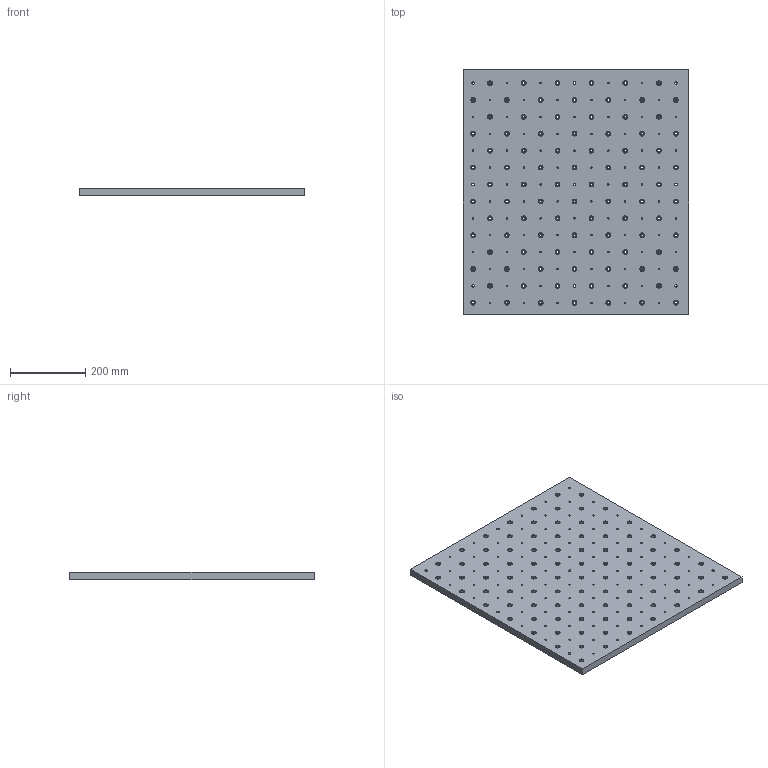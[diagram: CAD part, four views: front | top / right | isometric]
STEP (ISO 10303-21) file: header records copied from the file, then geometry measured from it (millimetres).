
FILE_DESCRIPTION(/* description */ (''),/* implementation_level */ '2;1');
FILE_NAME(/* name */ 'CL-6560 Spoilboard v1.step',/* time_stamp */ '2026-07-29T14:44:47+01:00',/* author */ (''),/* organization */ (''),/* preprocessor_version */ 'ST-DEVELOPER v20.1',/* originating_system */ 'Autodesk Translation Framework v15.8.0.0',/* authorisation */ '');
FILE_SCHEMA (('AUTOMOTIVE_DESIGN { 1 0 10303 214 3 1 1 }'));
Length unit declared in the file: millimetre
Products named in the file (2): CAM Root; Spoilboard
Assembly tree (1 placements, depth 2):
  CAM Root
    Spoilboard
Bounding box: 600 x 650 x 19 mm (x, y, z)
Volume: 7283490.5 mm3; surface area: 872366.7 mm2
Topology: 1 solids, 1 shells, 652 faces, 1131 edges, 754 vertices
Faces by surface type: cylinder 373, plane 279
Full cylindrical faces by diameter (mm): 4 x82, 6.8 x100, 8.7 x91, 12.6 x91, 20 x9
Entity records: 16394 total; most frequent: DIRECTION 3187, CARTESIAN_POINT 2540, ORIENTED_EDGE 2262, AXIS2_PLACEMENT_3D 1401, EDGE_CURVE 1131, EDGE_LOOP 1125, VERTEX_POINT 754, CIRCLE 746
